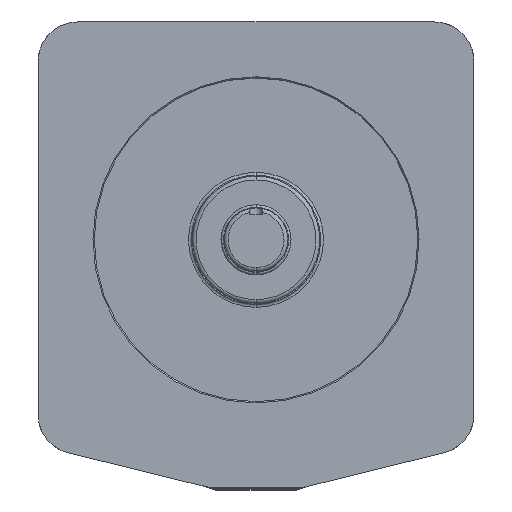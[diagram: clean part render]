
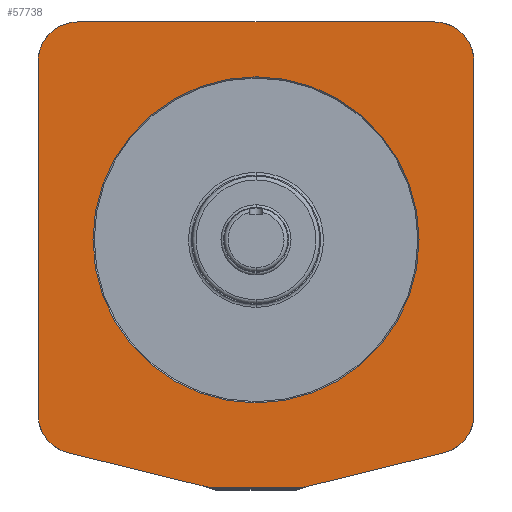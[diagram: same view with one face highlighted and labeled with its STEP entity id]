
A CAD part, top view. The second image highlights one B-rep face of the part: STEP entity #57738.
In plain terms, the highlighted planar face has unit normal (0, 0, 1).
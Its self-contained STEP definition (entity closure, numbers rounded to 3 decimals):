
#258 = LINE ( 'NONE', #28909, #22312 ) ;
#320 = LINE ( 'NONE', #28969, #60209 ) ;
#517 = EDGE_CURVE ( 'NONE', #42141, #69546, #89238, .T. ) ;
#522 = ORIENTED_EDGE ( 'NONE', *, *, #60107, .F. ) ;
#1088 = DIRECTION ( 'NONE',  ( 0., 0., -1. ) ) ;
#1667 = DIRECTION ( 'NONE',  ( 0., 0., -1. ) ) ;
#2920 = CIRCLE ( 'NONE', #55350, 31. ) ;
#2935 = DIRECTION ( 'NONE',  ( 0., 0., 1. ) ) ;
#2987 = CIRCLE ( 'NONE', #55407, 31. ) ;
#3540 = CIRCLE ( 'NONE', #15503, 31. ) ;
#4134 = VERTEX_POINT ( 'NONE', #82614 ) ;
#5866 = CARTESIAN_POINT ( 'NONE',  ( -86.084, 171.013, 387.5 ) ) ;
#6093 = DIRECTION ( 'NONE',  ( 0., 0., -1. ) ) ;
#6957 = CARTESIAN_POINT ( 'NONE',  ( -77., 0., 387.5 ) ) ;
#7437 = DIRECTION ( 'NONE',  ( 0., 0., -1. ) ) ;
#7855 = ORIENTED_EDGE ( 'NONE', *, *, #69200, .F. ) ;
#9472 = CARTESIAN_POINT ( 'NONE',  ( 191., 171.013, 387.5 ) ) ;
#9930 = FACE_BOUND ( 'NONE', #30505, .T. ) ;
#10734 = LINE ( 'NONE', #39390, #62519 ) ;
#12203 = ORIENTED_EDGE ( 'NONE', *, *, #517, .F. ) ;
#12484 = EDGE_CURVE ( 'NONE', #66210, #42141, #10734, .T. ) ;
#12813 = LINE ( 'NONE', #41461, #66656 ) ;
#13897 = CARTESIAN_POINT ( 'NONE',  ( 51., 0., 387.5 ) ) ;
#14187 = DIRECTION ( 'NONE',  ( -0.971, 0.239, 0. ) ) ;
#15503 = AXIS2_PLACEMENT_3D ( 'NONE', #49858, #78504, #14187 ) ;
#17669 = CARTESIAN_POINT ( 'NONE',  ( 222., -139.987, 387.5 ) ) ;
#18692 = VERTEX_POINT ( 'NONE', #17669 ) ;
#18734 = DIRECTION ( 'NONE',  ( 0., 1., 0. ) ) ;
#19644 = VECTOR ( 'NONE', #34513, 1000. ) ;
#20022 = ORIENTED_EDGE ( 'NONE', *, *, #64941, .F. ) ;
#20193 = VERTEX_POINT ( 'NONE', #35585 ) ;
#21930 = DIRECTION ( 'NONE',  ( 0.239, 0.971, 0. ) ) ;
#22312 = VECTOR ( 'NONE', #57489, 1000. ) ;
#22342 = CARTESIAN_POINT ( 'NONE',  ( -116.189, 147.409, 387.5 ) ) ;
#22682 = VERTEX_POINT ( 'NONE', #67964 ) ;
#23104 = ORIENTED_EDGE ( 'NONE', *, *, #59606, .F. ) ;
#23113 = DIRECTION ( 'NONE',  ( -1., 0., 0. ) ) ;
#23299 = EDGE_CURVE ( 'NONE', #61231, #67659, #70132, .T. ) ;
#23370 = CARTESIAN_POINT ( 'NONE',  ( -143.149, -37.658, 387.5 ) ) ;
#24517 = VERTEX_POINT ( 'NONE', #66240 ) ;
#26894 = ORIENTED_EDGE ( 'NONE', *, *, #28162, .F. ) ;
#28162 = EDGE_CURVE ( 'NONE', #20193, #71981, #79248, .T. ) ;
#28173 = AXIS2_PLACEMENT_3D ( 'NONE', #54405, #83041, #18734 ) ;
#28603 = VERTEX_POINT ( 'NONE', #66168 ) ;
#28909 = CARTESIAN_POINT ( 'NONE',  ( 222., 140.013, 387.5 ) ) ;
#28969 = CARTESIAN_POINT ( 'NONE',  ( -143.149, 37.658, 387.5 ) ) ;
#29751 = DIRECTION ( 'NONE',  ( -1., 0., 0. ) ) ;
#30089 = VERTEX_POINT ( 'NONE', #73625 ) ;
#30268 = EDGE_CURVE ( 'NONE', #71981, #24517, #57586, .T. ) ;
#30333 = DIRECTION ( 'NONE',  ( 0., -1., 0. ) ) ;
#30505 = EDGE_LOOP ( 'NONE', ( #52015, #54272 ) ) ;
#31589 = DIRECTION ( 'NONE',  ( 1., 0., 0. ) ) ;
#31768 = CARTESIAN_POINT ( 'NONE',  ( 51., 0., 387.5 ) ) ;
#32298 = EDGE_CURVE ( 'NONE', #24517, #60078, #320, .T. ) ;
#33014 = CARTESIAN_POINT ( 'NONE',  ( -86.084, 171.013, 387.5 ) ) ;
#33297 = ORIENTED_EDGE ( 'NONE', *, *, #30268, .F. ) ;
#34513 = DIRECTION ( 'NONE',  ( 1., 0., 0. ) ) ;
#34747 = DIRECTION ( 'NONE',  ( -0.971, -0.239, 0. ) ) ;
#35382 = ORIENTED_EDGE ( 'NONE', *, *, #75356, .F. ) ;
#35585 = CARTESIAN_POINT ( 'NONE',  ( -143.727, 32.887, 387.5 ) ) ;
#36079 = DIRECTION ( 'NONE',  ( 1., 0., 0. ) ) ;
#38410 = CIRCLE ( 'NONE', #90869, 128. ) ;
#38581 = PLANE ( 'NONE',  #53635 ) ;
#38778 = AXIS2_PLACEMENT_3D ( 'NONE', #65347, #1088, #29751 ) ;
#39390 = CARTESIAN_POINT ( 'NONE',  ( -116.195, -147.382, 387.5 ) ) ;
#41461 = CARTESIAN_POINT ( 'NONE',  ( -143.727, -32.887, 387.5 ) ) ;
#42141 = VERTEX_POINT ( 'NONE', #23370 ) ;
#42180 = VECTOR ( 'NONE', #21930, 1000. ) ;
#42535 = DIRECTION ( 'NONE',  ( 0., 0., 1. ) ) ;
#44249 = CARTESIAN_POINT ( 'NONE',  ( -116.195, -147.382, 387.5 ) ) ;
#46898 = ORIENTED_EDGE ( 'NONE', *, *, #23299, .F. ) ;
#47152 = AXIS2_PLACEMENT_3D ( 'NONE', #31768, #60355, #88982 ) ;
#48749 = AXIS2_PLACEMENT_3D ( 'NONE', #70385, #6093, #34747 ) ;
#49858 = CARTESIAN_POINT ( 'NONE',  ( -86.084, 140.013, 387.5 ) ) ;
#52015 = ORIENTED_EDGE ( 'NONE', *, *, #92907, .F. ) ;
#53635 = AXIS2_PLACEMENT_3D ( 'NONE', #67200, #2935, #31589 ) ;
#54272 = ORIENTED_EDGE ( 'NONE', *, *, #89129, .F. ) ;
#54405 = CARTESIAN_POINT ( 'NONE',  ( 191., 140.013, 387.5 ) ) ;
#55350 = AXIS2_PLACEMENT_3D ( 'NONE', #71718, #7437, #36079 ) ;
#55407 = AXIS2_PLACEMENT_3D ( 'NONE', #65944, #1667, #30333 ) ;
#57415 = CARTESIAN_POINT ( 'NONE',  ( -143.727, -32.887, 387.5 ) ) ;
#57489 = DIRECTION ( 'NONE',  ( 0., -1., 0. ) ) ;
#57550 = DIRECTION ( 'NONE',  ( 0.239, 0.971, 0. ) ) ;
#57586 = LINE ( 'NONE', #86205, #42180 ) ;
#57738 = ADVANCED_FACE ( 'NONE', ( #74238, #9930 ), #38581, .T. ) ;
#58774 = LINE ( 'NONE', #87400, #70313 ) ;
#59606 = EDGE_CURVE ( 'NONE', #18692, #30089, #2920, .T. ) ;
#60078 = VERTEX_POINT ( 'NONE', #22342 ) ;
#60107 = EDGE_CURVE ( 'NONE', #4134, #66210, #2987, .T. ) ;
#60209 = VECTOR ( 'NONE', #57550, 1000. ) ;
#60355 = DIRECTION ( 'NONE',  ( 0., 0., 1. ) ) ;
#61231 = VERTEX_POINT ( 'NONE', #33014 ) ;
#62519 = VECTOR ( 'NONE', #67982, 1000. ) ;
#62853 = ORIENTED_EDGE ( 'NONE', *, *, #64446, .F. ) ;
#64446 = EDGE_CURVE ( 'NONE', #28603, #18692, #258, .T. ) ;
#64941 = EDGE_CURVE ( 'NONE', #30089, #4134, #58774, .T. ) ;
#65347 = CARTESIAN_POINT ( 'NONE',  ( -123.727, 32.887, 387.5 ) ) ;
#65944 = CARTESIAN_POINT ( 'NONE',  ( -86.09, -139.987, 387.5 ) ) ;
#66168 = CARTESIAN_POINT ( 'NONE',  ( 222., 140.013, 387.5 ) ) ;
#66210 = VERTEX_POINT ( 'NONE', #44249 ) ;
#66240 = CARTESIAN_POINT ( 'NONE',  ( -143.149, 37.658, 387.5 ) ) ;
#66656 = VECTOR ( 'NONE', #70065, 1000. ) ;
#67200 = CARTESIAN_POINT ( 'NONE',  ( 191., -139.987, 387.5 ) ) ;
#67659 = VERTEX_POINT ( 'NONE', #9472 ) ;
#67964 = CARTESIAN_POINT ( 'NONE',  ( 179., 0., 387.5 ) ) ;
#67982 = DIRECTION ( 'NONE',  ( -0.239, 0.971, 0. ) ) ;
#68615 = CIRCLE ( 'NONE', #28173, 31. ) ;
#69200 = EDGE_CURVE ( 'NONE', #67659, #28603, #68615, .T. ) ;
#69432 = VERTEX_POINT ( 'NONE', #6957 ) ;
#69546 = VERTEX_POINT ( 'NONE', #57415 ) ;
#70065 = DIRECTION ( 'NONE',  ( 0., 1., 0. ) ) ;
#70132 = LINE ( 'NONE', #5866, #19644 ) ;
#70313 = VECTOR ( 'NONE', #23113, 1000. ) ;
#70385 = CARTESIAN_POINT ( 'NONE',  ( -123.727, -32.887, 387.5 ) ) ;
#71125 = DIRECTION ( 'NONE',  ( -1., 0., 0. ) ) ;
#71718 = CARTESIAN_POINT ( 'NONE',  ( 191., -139.987, 387.5 ) ) ;
#71981 = VERTEX_POINT ( 'NONE', #92610 ) ;
#73625 = CARTESIAN_POINT ( 'NONE',  ( 191., -170.987, 387.5 ) ) ;
#74238 = FACE_OUTER_BOUND ( 'NONE', #77036, .T. ) ;
#75356 = EDGE_CURVE ( 'NONE', #60078, #61231, #3540, .T. ) ;
#77036 = EDGE_LOOP ( 'NONE', ( #62853, #7855, #46898, #35382, #86010, #33297, #26894, #78147, #12203, #82975, #522, #20022, #23104 ) ) ;
#78147 = ORIENTED_EDGE ( 'NONE', *, *, #91476, .F. ) ;
#78504 = DIRECTION ( 'NONE',  ( 0., 0., -1. ) ) ;
#79248 = CIRCLE ( 'NONE', #38778, 20. ) ;
#82614 = CARTESIAN_POINT ( 'NONE',  ( -86.09, -170.987, 387.5 ) ) ;
#82975 = ORIENTED_EDGE ( 'NONE', *, *, #12484, .F. ) ;
#83041 = DIRECTION ( 'NONE',  ( 0., 0., -1. ) ) ;
#86010 = ORIENTED_EDGE ( 'NONE', *, *, #32298, .F. ) ;
#86205 = CARTESIAN_POINT ( 'NONE',  ( -143.149, 37.658, 387.5 ) ) ;
#87400 = CARTESIAN_POINT ( 'NONE',  ( 191., -170.987, 387.5 ) ) ;
#87605 = CIRCLE ( 'NONE', #47152, 128. ) ;
#88982 = DIRECTION ( 'NONE',  ( -1., 0., 0. ) ) ;
#89129 = EDGE_CURVE ( 'NONE', #69432, #22682, #87605, .T. ) ;
#89238 = CIRCLE ( 'NONE', #48749, 20. ) ;
#90869 = AXIS2_PLACEMENT_3D ( 'NONE', #13897, #42535, #71125 ) ;
#91476 = EDGE_CURVE ( 'NONE', #69546, #20193, #12813, .T. ) ;
#92610 = CARTESIAN_POINT ( 'NONE',  ( -143.149, 37.658, 387.5 ) ) ;
#92907 = EDGE_CURVE ( 'NONE', #22682, #69432, #38410, .T. ) ;
